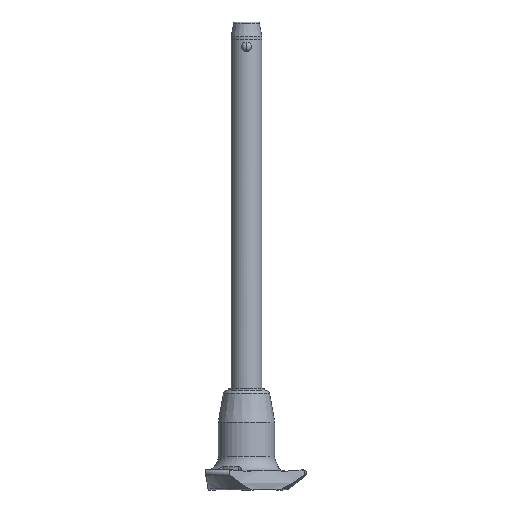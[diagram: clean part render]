
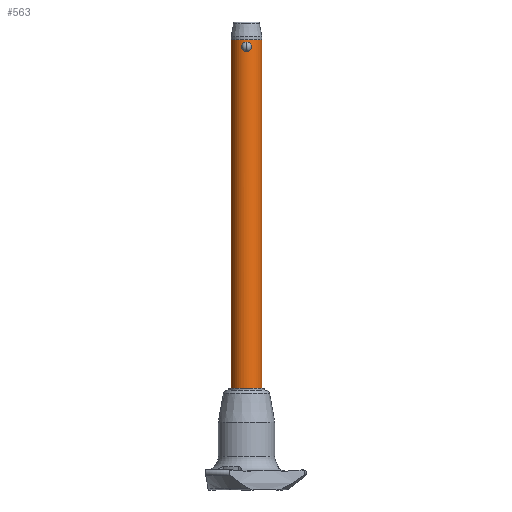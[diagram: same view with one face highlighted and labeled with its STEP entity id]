
A CAD part, front view. The second image highlights one B-rep face of the part: STEP entity #563.
In plain terms, the highlighted cylindrical face has radius 5 mm (diameter 10 mm), a partial arc.
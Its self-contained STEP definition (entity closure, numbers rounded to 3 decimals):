
#18 = EDGE_CURVE ( 'NONE', #545, #1907, #2760, .T. ) ;
#59 = CYLINDRICAL_SURFACE ( 'NONE', #717, 5. ) ;
#94 = DIRECTION ( 'NONE',  ( 1., 0., 0. ) ) ;
#111 = CARTESIAN_POINT ( 'NONE',  ( 0.205, -5., 0. ) ) ;
#125 = CARTESIAN_POINT ( 'NONE',  ( 1.047, -4.89, 0.356 ) ) ;
#127 = CARTESIAN_POINT ( 'NONE',  ( -0.791, -4.938, 2.844 ) ) ;
#143 = CARTESIAN_POINT ( 'NONE',  ( 0.412, -4.987, 2.996 ) ) ;
#158 = CARTESIAN_POINT ( 'NONE',  ( 0.208, -5., 3.033 ) ) ;
#160 = CARTESIAN_POINT ( 'NONE',  ( 0., -5., 3.033 ) ) ;
#162 = CARTESIAN_POINT ( 'NONE',  ( 0., 0., 3.84 ) ) ;
#212 = CARTESIAN_POINT ( 'NONE',  ( 5., 0., 3.84 ) ) ;
#337 = CARTESIAN_POINT ( 'NONE',  ( 0.699, -4.952, 0.144 ) ) ;
#339 = CARTESIAN_POINT ( 'NONE',  ( -0.205, -5., 0. ) ) ;
#352 = CARTESIAN_POINT ( 'NONE',  ( 0.792, -4.938, 2.844 ) ) ;
#370 = CARTESIAN_POINT ( 'NONE',  ( 1.395, -4.802, 2.301 ) ) ;
#372 = CARTESIAN_POINT ( 'NONE',  ( -1.197, -4.855, 2.539 ) ) ;
#399 = CARTESIAN_POINT ( 'NONE',  ( -1.394, -4.802, 0.731 ) ) ;
#423 = VERTEX_POINT ( 'NONE', #212 ) ;
#464 = DIRECTION ( 'NONE',  ( 0., 0., 1. ) ) ;
#545 = VERTEX_POINT ( 'NONE', #553 ) ;
#547 = EDGE_CURVE ( 'NONE', #2726, #1532, #1162, .T. ) ;
#553 = CARTESIAN_POINT ( 'NONE',  ( -5., 0., -110. ) ) ;
#563 = ADVANCED_FACE ( 'NONE', ( #955, #1607 ), #59, .T. ) ;
#567 = CARTESIAN_POINT ( 'NONE',  ( 1.594, -4.739, 1.721 ) ) ;
#569 = CARTESIAN_POINT ( 'NONE',  ( -0.412, -4.987, 2.997 ) ) ;
#581 = CARTESIAN_POINT ( 'NONE',  ( 1.551, -4.753, 1.922 ) ) ;
#636 = CARTESIAN_POINT ( 'NONE',  ( 0., 0., -110. ) ) ;
#638 = DIRECTION ( 'NONE',  ( 0., 0., 1. ) ) ;
#703 = ORIENTED_EDGE ( 'NONE', *, *, #1482, .T. ) ;
#717 = AXIS2_PLACEMENT_3D ( 'NONE', #2704, #464, #94 ) ;
#745 = ORIENTED_EDGE ( 'NONE', *, *, #547, .F. ) ;
#754 = CARTESIAN_POINT ( 'NONE',  ( 1.604, -4.736, 1.619 ) ) ;
#759 = CARTESIAN_POINT ( 'NONE',  ( 5., 0., -110. ) ) ;
#799 = CARTESIAN_POINT ( 'NONE',  ( 0., -5., 0. ) ) ;
#813 = CARTESIAN_POINT ( 'NONE',  ( -5., 0., 3.84 ) ) ;
#817 = CARTESIAN_POINT ( 'NONE',  ( -1.551, -4.753, 1.11 ) ) ;
#848 = CARTESIAN_POINT ( 'NONE',  ( -1.047, -4.89, 0.357 ) ) ;
#902 = CARTESIAN_POINT ( 'NONE',  ( 0., -5., 3.033 ) ) ;
#937 = CARTESIAN_POINT ( 'NONE',  ( -5., 0., -110. ) ) ;
#955 = FACE_OUTER_BOUND ( 'NONE', #2232, .T. ) ;
#997 = VECTOR ( 'NONE', #638, 1000. ) ;
#1000 = CARTESIAN_POINT ( 'NONE',  ( 1.384, -4.805, 0.735 ) ) ;
#1020 = DIRECTION ( 'NONE',  ( 0., 0., -1. ) ) ;
#1054 = EDGE_LOOP ( 'NONE', ( #1615, #745 ) ) ;
#1064 = CARTESIAN_POINT ( 'NONE',  ( -1.604, -4.736, 1.724 ) ) ;
#1162 = B_SPLINE_CURVE_WITH_KNOTS ( 'NONE', 3,
 ( #799, #111, #1641, #337, #2075, #2497, #125, #1880, #2109, #1000, #1667, #1866, #2526, #754, #567, #581, #1623, #370, #1444, #2309, #2749, #352, #1227, #143, #158, #2424 ),
 .UNSPECIFIED., .F., .F.,
 ( 4, 2, 2, 2, 2, 2, 2, 2, 2, 2, 2, 2, 4 ),
 ( 0.005, 0.006, 0.006, 0.006, 0.006, 0.007, 0.007, 0.008, 0.008, 0.009, 0.009, 0.009, 0.01 ),
 .UNSPECIFIED. ) ;
#1164 = ORIENTED_EDGE ( 'NONE', *, *, #18, .F. ) ;
#1227 = CARTESIAN_POINT ( 'NONE',  ( 0.7, -4.952, 2.888 ) ) ;
#1263 = CARTESIAN_POINT ( 'NONE',  ( -1.264, -4.838, 2.464 ) ) ;
#1433 = CARTESIAN_POINT ( 'NONE',  ( -0.208, -5., 3.033 ) ) ;
#1444 = CARTESIAN_POINT ( 'NONE',  ( 1.272, -4.838, 2.47 ) ) ;
#1446 = CARTESIAN_POINT ( 'NONE',  ( -1.519, -4.764, 1.013 ) ) ;
#1478 = CARTESIAN_POINT ( 'NONE',  ( -1.047, -4.89, 2.676 ) ) ;
#1482 = EDGE_CURVE ( 'NONE', #2261, #423, #2613, .T. ) ;
#1512 = ORIENTED_EDGE ( 'NONE', *, *, #2377, .F. ) ;
#1532 = VERTEX_POINT ( 'NONE', #902 ) ;
#1607 = FACE_BOUND ( 'NONE', #1054, .T. ) ;
#1615 = ORIENTED_EDGE ( 'NONE', *, *, #2650, .F. ) ;
#1623 = CARTESIAN_POINT ( 'NONE',  ( 1.519, -4.764, 2.021 ) ) ;
#1641 = CARTESIAN_POINT ( 'NONE',  ( 0.412, -4.987, 0.037 ) ) ;
#1667 = CARTESIAN_POINT ( 'NONE',  ( 1.434, -4.79, 0.822 ) ) ;
#1797 = VECTOR ( 'NONE', #2468, 1000. ) ;
#1866 = CARTESIAN_POINT ( 'NONE',  ( 1.56, -4.751, 1.103 ) ) ;
#1880 = CARTESIAN_POINT ( 'NONE',  ( 1.196, -4.855, 0.493 ) ) ;
#1882 = CARTESIAN_POINT ( 'NONE',  ( -0.792, -4.938, 0.19 ) ) ;
#1897 = CARTESIAN_POINT ( 'NONE',  ( -1.594, -4.739, 1.312 ) ) ;
#1907 = VERTEX_POINT ( 'NONE', #813 ) ;
#1914 = CARTESIAN_POINT ( 'NONE',  ( -0.965, -4.907, 2.738 ) ) ;
#1915 = AXIS2_PLACEMENT_3D ( 'NONE', #162, #1918, #2575 ) ;
#1918 = DIRECTION ( 'NONE',  ( 0., 0., 1. ) ) ;
#1946 = CARTESIAN_POINT ( 'NONE',  ( 5., 0., -110. ) ) ;
#1998 = CIRCLE ( 'NONE', #1915, 5. ) ;
#2075 = CARTESIAN_POINT ( 'NONE',  ( 0.792, -4.938, 0.19 ) ) ;
#2078 = CARTESIAN_POINT ( 'NONE',  ( -1.56, -4.751, 1.931 ) ) ;
#2109 = CARTESIAN_POINT ( 'NONE',  ( 1.265, -4.838, 0.57 ) ) ;
#2111 = CARTESIAN_POINT ( 'NONE',  ( -1.435, -4.79, 2.209 ) ) ;
#2126 = CARTESIAN_POINT ( 'NONE',  ( -0.966, -4.907, 0.296 ) ) ;
#2232 = EDGE_LOOP ( 'NONE', ( #1164, #2686, #703, #1512 ) ) ;
#2249 = B_SPLINE_CURVE_WITH_KNOTS ( 'NONE', 3,
 ( #160, #1433, #569, #2361, #127, #1914, #1478, #372, #1263, #2528, #2111, #2078, #1064, #2300, #1897, #817, #1446, #399, #2766, #848, #2126, #1882, #2311, #2332, #339, #2345 ),
 .UNSPECIFIED., .F., .F.,
 ( 4, 2, 2, 2, 2, 2, 2, 2, 2, 2, 2, 2, 4 ),
 ( 0., 0.001, 0.001, 0.001, 0.002, 0.002, 0.002, 0.003, 0.003, 0.004, 0.004, 0.004, 0.005 ),
 .UNSPECIFIED. ) ;
#2261 = VERTEX_POINT ( 'NONE', #759 ) ;
#2279 = CIRCLE ( 'NONE', #2635, 5. ) ;
#2300 = CARTESIAN_POINT ( 'NONE',  ( -1.604, -4.736, 1.416 ) ) ;
#2309 = CARTESIAN_POINT ( 'NONE',  ( 1.048, -4.889, 2.676 ) ) ;
#2311 = CARTESIAN_POINT ( 'NONE',  ( -0.699, -4.952, 0.145 ) ) ;
#2332 = CARTESIAN_POINT ( 'NONE',  ( -0.412, -4.987, 0.037 ) ) ;
#2345 = CARTESIAN_POINT ( 'NONE',  ( 0., -5., 0. ) ) ;
#2361 = CARTESIAN_POINT ( 'NONE',  ( -0.7, -4.952, 2.888 ) ) ;
#2375 = CARTESIAN_POINT ( 'NONE',  ( 0., -5., 0. ) ) ;
#2377 = EDGE_CURVE ( 'NONE', #1907, #423, #1998, .T. ) ;
#2424 = CARTESIAN_POINT ( 'NONE',  ( 0., -5., 3.033 ) ) ;
#2468 = DIRECTION ( 'NONE',  ( 0., 0., 1. ) ) ;
#2497 = CARTESIAN_POINT ( 'NONE',  ( 0.966, -4.907, 0.296 ) ) ;
#2526 = CARTESIAN_POINT ( 'NONE',  ( 1.604, -4.736, 1.308 ) ) ;
#2528 = CARTESIAN_POINT ( 'NONE',  ( -1.383, -4.805, 2.299 ) ) ;
#2575 = DIRECTION ( 'NONE',  ( 1., 0., 0. ) ) ;
#2613 = LINE ( 'NONE', #1946, #997 ) ;
#2635 = AXIS2_PLACEMENT_3D ( 'NONE', #636, #1020, #2756 ) ;
#2650 = EDGE_CURVE ( 'NONE', #1532, #2726, #2249, .T. ) ;
#2686 = ORIENTED_EDGE ( 'NONE', *, *, #2787, .F. ) ;
#2704 = CARTESIAN_POINT ( 'NONE',  ( 0., 0., -110. ) ) ;
#2726 = VERTEX_POINT ( 'NONE', #2375 ) ;
#2749 = CARTESIAN_POINT ( 'NONE',  ( 0.966, -4.907, 2.738 ) ) ;
#2756 = DIRECTION ( 'NONE',  ( 1., 0., 0. ) ) ;
#2760 = LINE ( 'NONE', #937, #1797 ) ;
#2766 = CARTESIAN_POINT ( 'NONE',  ( -1.272, -4.838, 0.564 ) ) ;
#2787 = EDGE_CURVE ( 'NONE', #2261, #545, #2279, .T. ) ;
